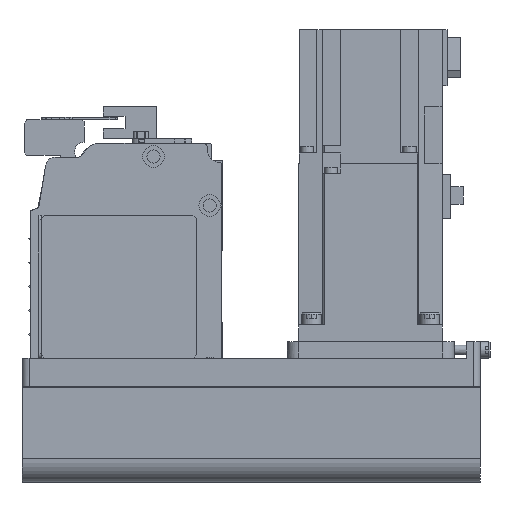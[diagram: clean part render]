
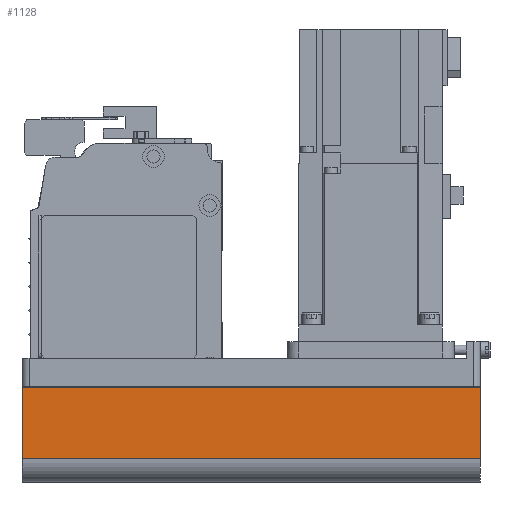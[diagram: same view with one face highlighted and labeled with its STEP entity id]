
A CAD part, left-side view. The second image highlights one B-rep face of the part: STEP entity #1128.
In plain terms, the highlighted planar face has unit normal (-1, 0, 0) as drawn and (0, 1, 0) by its records, which use the part's own axes.
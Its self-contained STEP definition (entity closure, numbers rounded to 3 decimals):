
#1128 = ADVANCED_FACE( '', ( #2794 ), #2795, .T. );
#2794 = FACE_OUTER_BOUND( '', #5186, .T. );
#2795 = PLANE( '', #5187 );
#5186 = EDGE_LOOP( '', ( #8302, #8303, #8304, #8305 ) );
#5187 = AXIS2_PLACEMENT_3D( '', #8306, #8307, #8308 );
#8302 = ORIENTED_EDGE( '', *, *, #14277, .F. );
#8303 = ORIENTED_EDGE( '', *, *, #14278, .F. );
#8304 = ORIENTED_EDGE( '', *, *, #14279, .T. );
#8305 = ORIENTED_EDGE( '', *, *, #13569, .T. );
#8306 = CARTESIAN_POINT( '', ( -192., 40., -42. ) );
#8307 = DIRECTION( '', ( 0., 1., 0. ) );
#8308 = DIRECTION( '', ( 0., 0., 1. ) );
#13569 = EDGE_CURVE( '', #16047, #16048, #16049, .T. );
#14277 = EDGE_CURVE( '', #17280, #16048, #17281, .T. );
#14278 = EDGE_CURVE( '', #17282, #17280, #17283, .T. );
#14279 = EDGE_CURVE( '', #17282, #16047, #17284, .T. );
#16047 = VERTEX_POINT( '', #19716 );
#16048 = VERTEX_POINT( '', #19717 );
#16049 = LINE( '', #19718, #19719 );
#17280 = VERTEX_POINT( '', #21355 );
#17281 = LINE( '', #21356, #21357 );
#17282 = VERTEX_POINT( '', #21358 );
#17283 = LINE( '', #21359, #21360 );
#17284 = LINE( '', #21361, #21362 );
#19716 = CARTESIAN_POINT( '', ( -192., 40., -12.1 ) );
#19717 = CARTESIAN_POINT( '', ( 0., 40., -12.1 ) );
#19718 = CARTESIAN_POINT( '', ( -192., 40., -12.1 ) );
#19719 = VECTOR( '', #24610, 1000. );
#21355 = CARTESIAN_POINT( '', ( 0., 40., -42. ) );
#21356 = CARTESIAN_POINT( '', ( 0., 40., -42. ) );
#21357 = VECTOR( '', #25559, 1000. );
#21358 = CARTESIAN_POINT( '', ( -192., 40., -42. ) );
#21359 = CARTESIAN_POINT( '', ( -192., 40., -42. ) );
#21360 = VECTOR( '', #25560, 1000. );
#21361 = CARTESIAN_POINT( '', ( -192., 40., -42. ) );
#21362 = VECTOR( '', #25561, 1000. );
#24610 = DIRECTION( '', ( 1., 0., 0. ) );
#25559 = DIRECTION( '', ( 0., 0., 1. ) );
#25560 = DIRECTION( '', ( 1., 0., 0. ) );
#25561 = DIRECTION( '', ( 0., 0., 1. ) );
